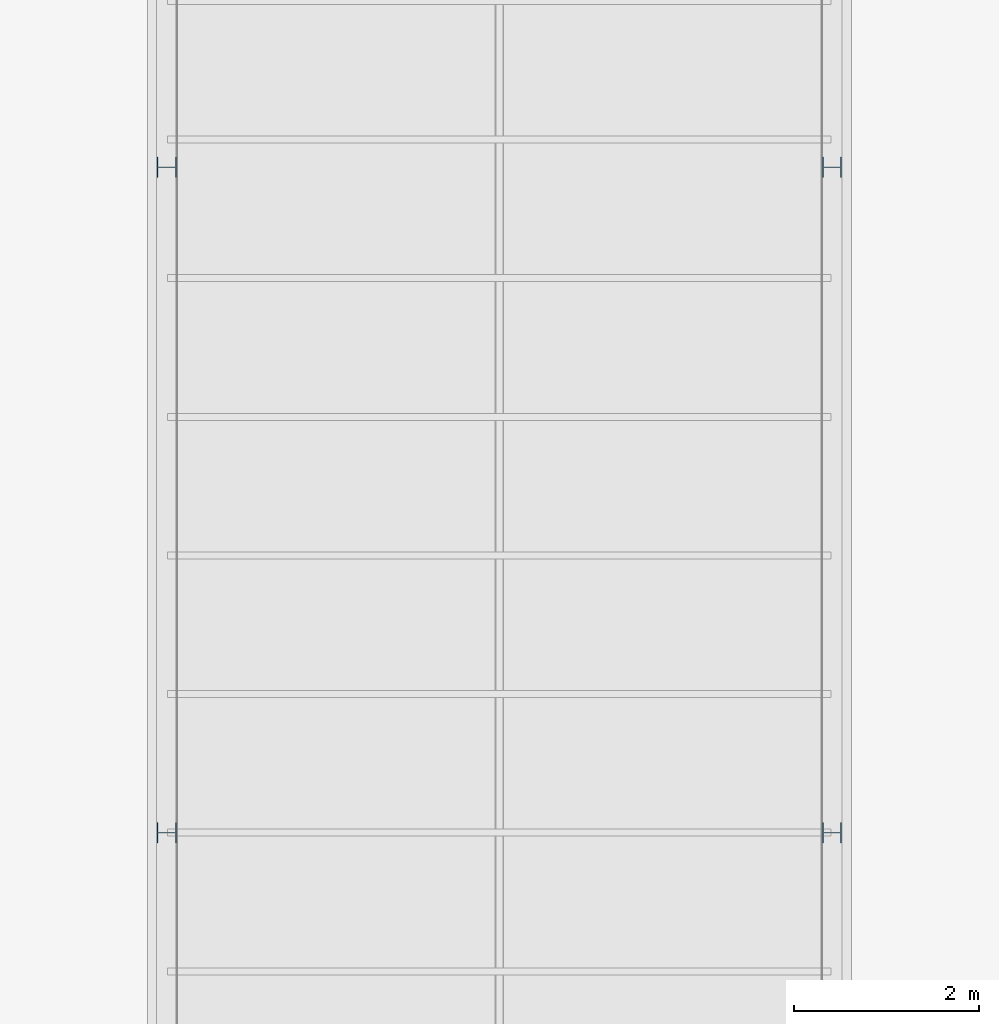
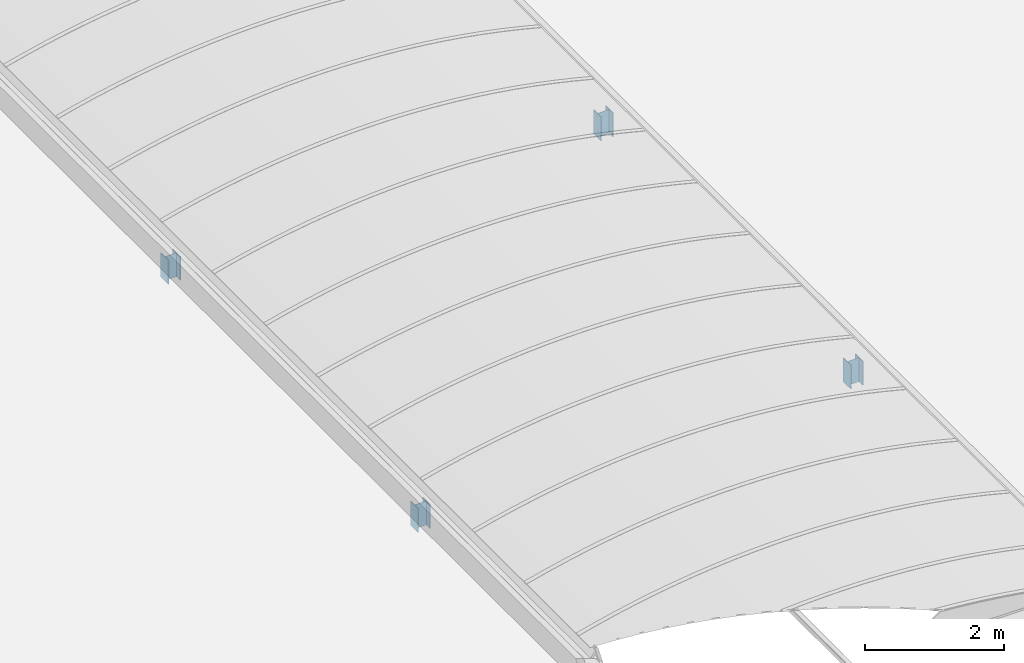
# One storey, part 25 of 81: 4 columns.
"""IFC2X3 building model written with IfcOpenShell, lengths in millimetres."""

from ifc_helpers import new_model, entity, si_unit, converted_unit, derived_unit, money_unit, direction, frame, origin_with_axes, place, context, subcontext, project, spatial, faceted_brep, material, type_object, element, save


model = new_model("IFC2X3")

# Units and contexts
model_context = context("Model", 3, precision=0.01, world=origin_with_axes(), true_north=direction((0.0, 1.0)))
body_context = subcontext(model_context, "Body", "Model", "MODEL_VIEW")
ifc_project = project(units=[si_unit("LENGTHUNIT", "METRE", prefix="MILLI"), si_unit("AREAUNIT", "SQUARE_METRE"), si_unit("VOLUMEUNIT", "CUBIC_METRE"), converted_unit("PLANEANGLEUNIT", "DEGREE", entity("IfcPlaneAngleMeasure", 0.0174532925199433), si_unit("PLANEANGLEUNIT", "RADIAN"), dimensions=[0, 0, 0, 0, 0, 0, 0]), money_unit("EUR"), converted_unit("TIMEUNIT", "Year", entity("IfcTimeMeasure", 31557600.0), si_unit("TIMEUNIT", "SECOND"), dimensions=[0, 0, 1, 0, 0, 0, 0]), si_unit("MASSUNIT", "GRAM", prefix="KILO"), si_unit("THERMODYNAMICTEMPERATUREUNIT", "DEGREE_CELSIUS"), si_unit("LUMINOUSINTENSITYUNIT", "LUMEN"), si_unit("ENERGYUNIT", "JOULE", prefix="MEGA"), derived_unit("THERMALCONDUCTANCEUNIT", [(si_unit("POWERUNIT", "WATT"), 1), (si_unit("LENGTHUNIT", "METRE"), -1), (si_unit("THERMODYNAMICTEMPERATUREUNIT", "KELVIN"), -1)]), derived_unit("SPECIFICHEATCAPACITYUNIT", [(si_unit("ENERGYUNIT", "JOULE"), 1), (si_unit("MASSUNIT", "GRAM", prefix="KILO"), -1), (si_unit("THERMODYNAMICTEMPERATUREUNIT", "KELVIN"), -1)]), derived_unit("MASSDENSITYUNIT", [(si_unit("MASSUNIT", "GRAM", prefix="KILO"), 1), (si_unit("VOLUMEUNIT", "CUBIC_METRE"), -1)])], contexts=[model_context])

# Site, building, storey
site_placement = place(None, origin_with_axes())
site = spatial("IfcSite", under=ifc_project, at=site_placement, Name="Site", CompositionType="ELEMENT")
building_placement = place(site_placement, origin_with_axes())
building = spatial("IfcBuilding", under=site, at=building_placement, Name="Naam gebouw", CompositionType="ELEMENT")
storey_placement = place(building_placement, frame((0.0, 0.0, 15320.0), z_axis=(0.0, 0.0, 1.0), x_axis=(1.0, 0.0, 0.0)))
storey = spatial("IfcBuildingStorey", under=building, at=storey_placement, Name="01 dak", CompositionType="ELEMENT", Elevation=15320.0)

# Columns
ifc_material = material(Name="Metaal - Staal C")
column_type = type_object("IfcColumnType", Name="HEA220 220 x 210", PredefinedType="COLUMN")
for number, where, z_axis, x_axis, name in (
    (1, (101700.0, 76400.0, -70.00000000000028), (0.0, 0.0, 1.0), (-1.0, 0.0, 0.0), "HEA220"),
    (2, (108900.0, 76400.0, -70.00000000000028), (0.0, 0.0, 1.0), (-1.0, 0.0, 0.0), "HEA220"),
    (3, (108900.0, 83600.0, -70.00000000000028), (0.0, 0.0, 1.0), (-1.0, 0.0, 0.0), "HEA220"),
    (4, (101700.0, 83600.0, -70.00000000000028), (0.0, 0.0, 1.0), (-1.0, 0.0, 0.0), "HEA220"),
):
    element("IfcColumn", number, at=place(storey_placement, frame(where, z_axis=z_axis, x_axis=x_axis)), inside=storey, type_object=column_type, material=ifc_material, Name=name, ObjectType="COLUMN", context=body_context, shape_type="Brep", body=[
        faceted_brep([(-105.000000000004, -109.9999999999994, 419.9999999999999), (-105.000000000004, -109.9999999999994, 0.0), (-93.99999999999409, -109.9999999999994, 0.0), (-93.99999999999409, -109.9999999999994, 419.9999999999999), (-105.000000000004, 109.9999999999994, 419.9999999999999), (-105.000000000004, 109.9999999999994, 0.0), (-93.99999999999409, 109.9999999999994, 0.0), (-93.99999999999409, 3.500000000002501, 0.0), (93.99999999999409, 3.500000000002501, 0.0), (93.99999999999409, 109.9999999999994, 0.0), (105.000000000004, 109.9999999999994, 0.0), (105.000000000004, -109.9999999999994, 0.0), (93.99999999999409, -109.9999999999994, 0.0), (93.99999999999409, -3.500000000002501, 0.0), (-93.99999999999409, -3.500000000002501, 0.0), (-93.99999999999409, -3.500000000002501, 419.9999999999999), (93.99999999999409, -3.500000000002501, 419.9999999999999), (93.99999999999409, -109.9999999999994, 419.9999999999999), (105.000000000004, -109.9999999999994, 419.9999999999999), (105.000000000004, 109.9999999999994, 419.9999999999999), (93.99999999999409, 109.9999999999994, 419.9999999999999), (93.99999999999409, 3.500000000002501, 419.9999999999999), (-93.99999999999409, 3.500000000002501, 419.9999999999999), (-93.99999999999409, 109.9999999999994, 419.9999999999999)], [[[0, 1, 2, 3]], [[4, 5, 1, 0]], [[2, 1, 5, 6, 7, 8, 9, 10, 11, 12, 13, 14]], [[3, 2, 14, 15]], [[4, 0, 3, 15, 16, 17, 18, 19, 20, 21, 22, 23]], [[23, 6, 5, 4]], [[22, 7, 6, 23]], [[21, 8, 7, 22]], [[20, 9, 8, 21]], [[19, 10, 9, 20]], [[18, 11, 10, 19]], [[17, 12, 11, 18]], [[16, 13, 12, 17]], [[15, 14, 13, 16]]]),
    ])

save(model, "model.ifc")
